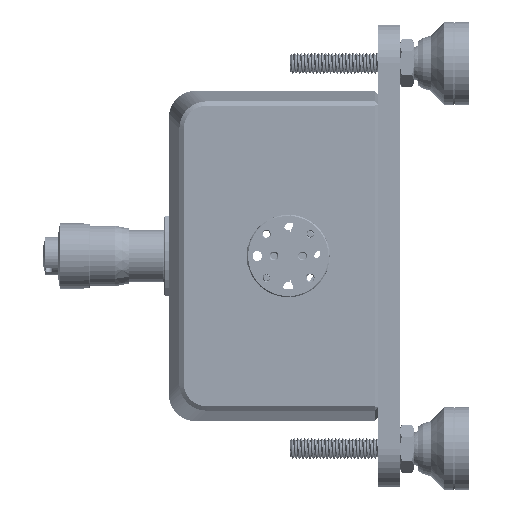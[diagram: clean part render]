
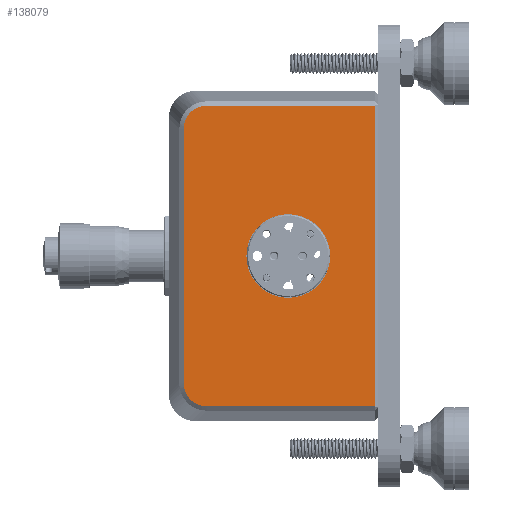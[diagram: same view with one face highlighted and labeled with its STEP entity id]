
A CAD part, left-side view. The second image highlights one B-rep face of the part: STEP entity #138079.
In plain terms, the highlighted planar face has unit normal (-1, 0, 0).
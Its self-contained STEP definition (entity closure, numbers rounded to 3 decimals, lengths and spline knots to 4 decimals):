
#2981 = ORIENTED_EDGE ( 'NONE', *, *, #35192, .T. ) ;
#4402 = CIRCLE ( 'NONE', #269314, 0.38 ) ;
#6293 = ORIENTED_EDGE ( 'NONE', *, *, #290721, .F. ) ;
#13393 = CARTESIAN_POINT ( 'NONE',  ( -4.25, -6.8117, 1.3596 ) ) ;
#14127 = CARTESIAN_POINT ( 'NONE',  ( -4.25, -6.6995, -1.2849 ) ) ;
#18444 = FACE_BOUND ( 'NONE', #237951, .T. ) ;
#23169 = DIRECTION ( 'NONE',  ( 0., 1., 0. ) ) ;
#24264 = LINE ( 'NONE', #71035, #124284 ) ;
#27463 = EDGE_CURVE ( 'NONE', #209617, #31540, #63121, .T. ) ;
#27847 = CARTESIAN_POINT ( 'NONE',  ( -4.25, -6.6578, -1.1562 ) ) ;
#31540 = VERTEX_POINT ( 'NONE', #152003 ) ;
#32579 = CARTESIAN_POINT ( 'NONE',  ( -4.25, -6.6578, 0. ) ) ;
#34559 = CARTESIAN_POINT ( 'NONE',  ( -4.25, -6.6578, 1.1562 ) ) ;
#35192 = EDGE_CURVE ( 'NONE', #31540, #293244, #24264, .T. ) ;
#40068 = VERTEX_POINT ( 'NONE', #232801 ) ;
#40195 = CARTESIAN_POINT ( 'NONE',  ( -4.25, -7.6079, -0.38 ) ) ;
#40500 = DIRECTION ( 'NONE',  ( 0., -1., 0. ) ) ;
#42838 = VERTEX_POINT ( 'NONE', #298725 ) ;
#51996 = B_SPLINE_CURVE_WITH_KNOTS ( 'NONE', 3,
 ( #81287, #218619, #13393, #286488, #242711, #193017, #191535, #220087, #241203, #34559 ),
 .UNSPECIFIED., .F., .F.,
 ( 4, 2, 2, 2, 4 ),
 ( 0., 0.25, 0.5, 0.75, 1. ),
 .UNSPECIFIED. ) ;
#54940 = CARTESIAN_POINT ( 'NONE',  ( -4.25, -6.8117, -1.3596 ) ) ;
#57912 = CARTESIAN_POINT ( 'NONE',  ( -4.25, -6.6632, -1.2111 ) ) ;
#63121 = LINE ( 'NONE', #87203, #153098 ) ;
#68215 = DIRECTION ( 'NONE',  ( 0., 0., -1. ) ) ;
#71035 = CARTESIAN_POINT ( 'NONE',  ( -4.25, -8.3929, 0. ) ) ;
#71121 = CARTESIAN_POINT ( 'NONE',  ( -4.25, -7.6079, 0. ) ) ;
#74249 = CARTESIAN_POINT ( 'NONE',  ( -4.25, -6.8667, -1.3651 ) ) ;
#81287 = CARTESIAN_POINT ( 'NONE',  ( -4.25, -6.8667, 1.3651 ) ) ;
#87203 = CARTESIAN_POINT ( 'NONE',  ( -4.25, -7.4729, -1.3651 ) ) ;
#88684 = CARTESIAN_POINT ( 'NONE',  ( -4.25, -7.6079, 0.38 ) ) ;
#101686 = CARTESIAN_POINT ( 'NONE',  ( -4.25, -6.7612, -1.3388 ) ) ;
#103634 = B_SPLINE_CURVE_WITH_KNOTS ( 'NONE', 3,
 ( #27847, #192249, #57912, #263084, #14127, #261618, #101686, #54940, #199707, #125828 ),
 .UNSPECIFIED., .F., .F.,
 ( 4, 2, 2, 2, 4 ),
 ( 0., 0.25, 0.5, 0.75, 1. ),
 .UNSPECIFIED. ) ;
#104217 = AXIS2_PLACEMENT_3D ( 'NONE', #133161, #274891, #68215 ) ;
#104908 = DIRECTION ( 'NONE',  ( -1., 0., 0. ) ) ;
#107019 = EDGE_CURVE ( 'NONE', #42838, #40068, #51996, .T. ) ;
#124284 = VECTOR ( 'NONE', #190155, 39.3701 ) ;
#125828 = CARTESIAN_POINT ( 'NONE',  ( -4.25, -6.8667, -1.3651 ) ) ;
#133161 = CARTESIAN_POINT ( 'NONE',  ( -4.25, -7.4729, 0. ) ) ;
#138079 = ADVANCED_FACE ( 'NONE', ( #18444, #270433 ), #205517, .F. ) ;
#138707 = AXIS2_PLACEMENT_3D ( 'NONE', #199951, #104908, #266342 ) ;
#141893 = ORIENTED_EDGE ( 'NONE', *, *, #27463, .T. ) ;
#147296 = LINE ( 'NONE', #32579, #158330 ) ;
#152003 = CARTESIAN_POINT ( 'NONE',  ( -4.25, -8.3929, -1.3651 ) ) ;
#153098 = VECTOR ( 'NONE', #40500, 39.3701 ) ;
#158330 = VECTOR ( 'NONE', #215186, 39.3701 ) ;
#166697 = EDGE_CURVE ( 'NONE', #252874, #297536, #4402, .T. ) ;
#169047 = ORIENTED_EDGE ( 'NONE', *, *, #107019, .T. ) ;
#169629 = ORIENTED_EDGE ( 'NONE', *, *, #247899, .T. ) ;
#177987 = VERTEX_POINT ( 'NONE', #235238 ) ;
#181982 = CIRCLE ( 'NONE', #138707, 0.38 ) ;
#190155 = DIRECTION ( 'NONE',  ( 0., 0., 1. ) ) ;
#191535 = CARTESIAN_POINT ( 'NONE',  ( -4.25, -6.684, 1.2616 ) ) ;
#192249 = CARTESIAN_POINT ( 'NONE',  ( -4.25, -6.6578, -1.1836 ) ) ;
#193017 = CARTESIAN_POINT ( 'NONE',  ( -4.25, -6.6995, 1.2849 ) ) ;
#199707 = CARTESIAN_POINT ( 'NONE',  ( -4.25, -6.8392, -1.3651 ) ) ;
#199951 = CARTESIAN_POINT ( 'NONE',  ( -4.25, -7.6079, 0. ) ) ;
#205517 = PLANE ( 'NONE',  #104217 ) ;
#209617 = VERTEX_POINT ( 'NONE', #74249 ) ;
#209945 = DIRECTION ( 'NONE',  ( 0., 0., 1. ) ) ;
#213824 = EDGE_CURVE ( 'NONE', #293244, #42838, #270713, .T. ) ;
#215186 = DIRECTION ( 'NONE',  ( 0., 0., -1. ) ) ;
#218619 = CARTESIAN_POINT ( 'NONE',  ( -4.25, -6.8392, 1.3651 ) ) ;
#220087 = CARTESIAN_POINT ( 'NONE',  ( -4.25, -6.6632, 1.2111 ) ) ;
#232801 = CARTESIAN_POINT ( 'NONE',  ( -4.25, -6.6578, 1.1562 ) ) ;
#235238 = CARTESIAN_POINT ( 'NONE',  ( -4.25, -6.6578, -1.1562 ) ) ;
#237334 = ORIENTED_EDGE ( 'NONE', *, *, #292405, .T. ) ;
#237951 = EDGE_LOOP ( 'NONE', ( #262349, #6293 ) ) ;
#240781 = ORIENTED_EDGE ( 'NONE', *, *, #213824, .T. ) ;
#241203 = CARTESIAN_POINT ( 'NONE',  ( -4.25, -6.6578, 1.1837 ) ) ;
#242711 = CARTESIAN_POINT ( 'NONE',  ( -4.25, -6.738, 1.3234 ) ) ;
#247899 = EDGE_CURVE ( 'NONE', #177987, #209617, #103634, .T. ) ;
#249537 = CARTESIAN_POINT ( 'NONE',  ( -4.25, -7.4729, 1.3651 ) ) ;
#252202 = DIRECTION ( 'NONE',  ( -1., 0., 0. ) ) ;
#252874 = VERTEX_POINT ( 'NONE', #88684 ) ;
#261618 = CARTESIAN_POINT ( 'NONE',  ( -4.25, -6.738, -1.3234 ) ) ;
#262349 = ORIENTED_EDGE ( 'NONE', *, *, #166697, .F. ) ;
#263084 = CARTESIAN_POINT ( 'NONE',  ( -4.25, -6.684, -1.2616 ) ) ;
#266342 = DIRECTION ( 'NONE',  ( 0., 0., 1. ) ) ;
#269314 = AXIS2_PLACEMENT_3D ( 'NONE', #71121, #252202, #209945 ) ;
#270433 = FACE_OUTER_BOUND ( 'NONE', #282631, .T. ) ;
#270713 = LINE ( 'NONE', #249537, #274626 ) ;
#273502 = CARTESIAN_POINT ( 'NONE',  ( -4.25, -8.3929, 1.3651 ) ) ;
#274626 = VECTOR ( 'NONE', #23169, 39.3701 ) ;
#274891 = DIRECTION ( 'NONE',  ( 1., 0., 0. ) ) ;
#282631 = EDGE_LOOP ( 'NONE', ( #169629, #141893, #2981, #240781, #169047, #237334 ) ) ;
#286488 = CARTESIAN_POINT ( 'NONE',  ( -4.25, -6.7612, 1.3388 ) ) ;
#290721 = EDGE_CURVE ( 'NONE', #297536, #252874, #181982, .T. ) ;
#292405 = EDGE_CURVE ( 'NONE', #40068, #177987, #147296, .T. ) ;
#293244 = VERTEX_POINT ( 'NONE', #273502 ) ;
#297536 = VERTEX_POINT ( 'NONE', #40195 ) ;
#298725 = CARTESIAN_POINT ( 'NONE',  ( -4.25, -6.8667, 1.3651 ) ) ;
